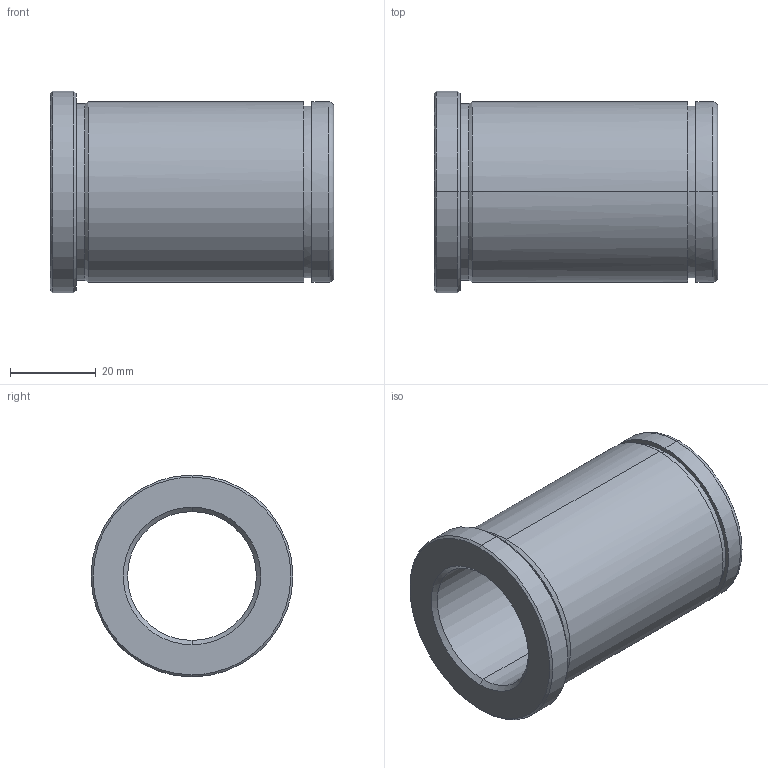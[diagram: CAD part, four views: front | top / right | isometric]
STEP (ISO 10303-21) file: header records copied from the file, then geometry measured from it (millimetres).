
FILE_DESCRIPTION(('CATIA V5 STEP Exchange'),'2;1');
FILE_NAME('C:\Users\Utente\Desktop\IO LAVORO\3D X SITO CF\X SITO\PLASTICA\553\553-30X66.stp','2021-05-26T18:23:47+00:00',('none'),('none'),'CATIA Version 5 Release 20 GA (IN-10)','CATIA V5 STEP AP203','none');
FILE_SCHEMA(('CONFIG_CONTROL_DESIGN'));
Length unit declared in the file: millimetre
Products named in the file (1): 553-30X66
Bounding box: 66 x 47 x 47 mm (x, y, z)
Volume: 46230.3 mm3; surface area: 17092.3 mm2
Topology: 1 solids, 1 shells, 29 faces, 92 edges, 68 vertices
Faces by surface type: cylinder 12, cone 8, plane 5, torus 4
Entity records: 1228 total; most frequent: CARTESIAN_POINT 378, ORIENTED_EDGE 184, DIRECTION 134, EDGE_CURVE 92, AXIS2_PLACEMENT_3D 86, VERTEX_POINT 68, CIRCLE 56, EDGE_LOOP 34
